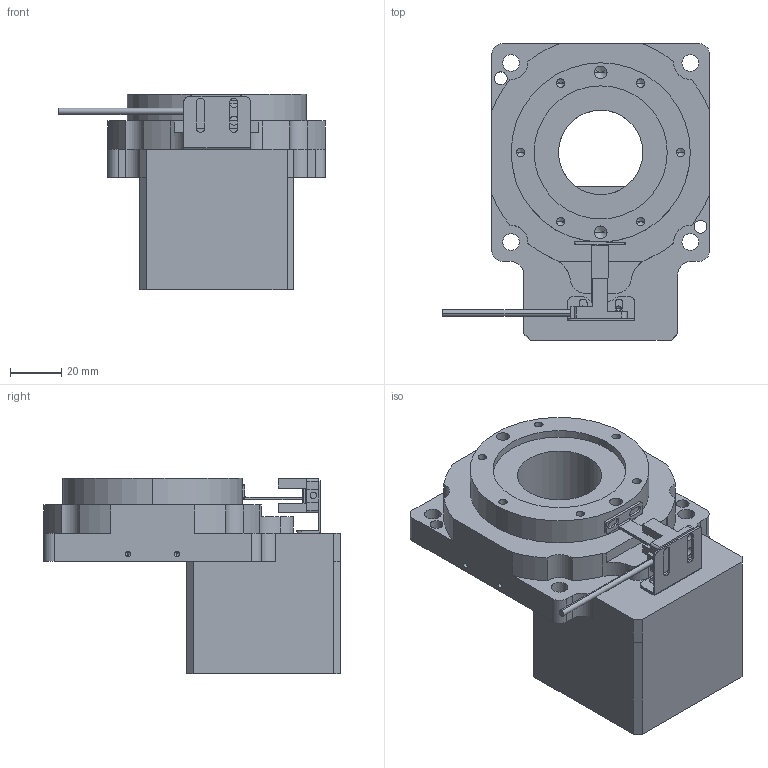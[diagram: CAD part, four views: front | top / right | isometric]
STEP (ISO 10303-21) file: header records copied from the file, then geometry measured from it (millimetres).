
FILE_DESCRIPTION (( 'STEP AP203' ), '1' );
FILE_NAME ('RTN85-10K-14-50-70-M5(ÐÐÐÇ).STEP', '2024-05-21T09:53:10', ( '' ), ( '' ), 'SwSTEP 2.0', 'SolidWorks 2023', '' );
FILE_SCHEMA (( 'CONFIG_CONTROL_DESIGN' ));
Length unit declared in the file: millimetre
Products named in the file (1): RTN85-10K-14-50-70-M5(行星)
Bounding box: 104.3 x 115.8 x 76.5 mm (x, y, z)
Volume: 315947.4 mm3; surface area: 49287.6 mm2
Topology: 4 solids, 6 shells, 281 faces, 747 edges, 464 vertices
Faces by surface type: cylinder 126, plane 115, cone 40
Entity records: 8590 total; most frequent: DIRECTION 1525, CARTESIAN_POINT 1459, ORIENTED_EDGE 1414, EDGE_CURVE 707, AXIS2_PLACEMENT_3D 538, VERTEX_POINT 464, VECTOR 449, LINE 449
